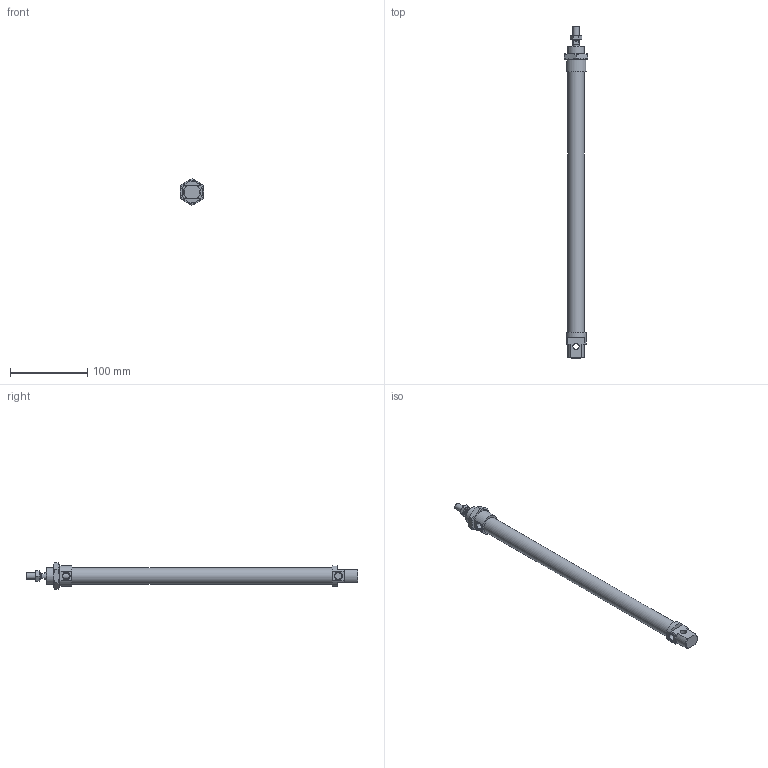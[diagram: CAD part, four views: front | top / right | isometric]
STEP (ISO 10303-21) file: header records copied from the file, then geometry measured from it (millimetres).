
FILE_DESCRIPTION((''),'2;1');
FILE_NAME('I:\Area Tecnica\Disegni\VARIE-3D\Componenti\1280\1280_##_####_#\1280_20_0300.iam.stp','2009-06-04T09:44:35',(''),(''),'Autodesk Inventor 2010','Autodesk Inventor 2010','');
FILE_SCHEMA(('AUTOMOTIVE_DESIGN { 1 0 10303 214 1 1 1 1 }'));
Length unit declared in the file: millimetre
Products named in the file (5): 1280_20_0300; C1280_20_300; S1280_20_300; 1200_20_05; 1200_20_06
Assembly tree (4 placements, depth 2):
  1280_20_0300
    C1280_20_300
    S1280_20_300
    1200_20_05
    1200_20_06
Bounding box: 30 x 430 x 34.64 mm (x, y, z)
Volume: 150253.8 mm3; surface area: 49591.6 mm2
Topology: 4 solids, 4 shells, 92 faces, 204 edges, 125 vertices
Faces by surface type: plane 41, cone 28, bspline 12, cylinder 11
Full cylindrical faces by diameter (mm): 6.5 x1, 8 x4, 21.2 x1, 22 x1
Entity records: 2742 total; most frequent: CARTESIAN_POINT 697, DIRECTION 376, ORIENTED_EDGE 356, EDGE_CURVE 178, AXIS2_PLACEMENT_3D 163, EDGE_LOOP 124, VERTEX_POINT 118, STYLED_ITEM 96
